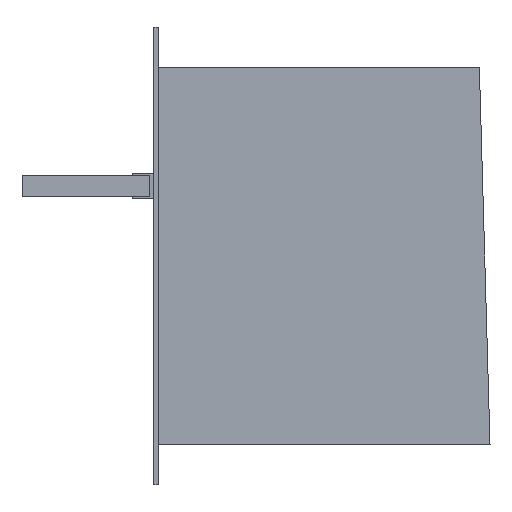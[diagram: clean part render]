
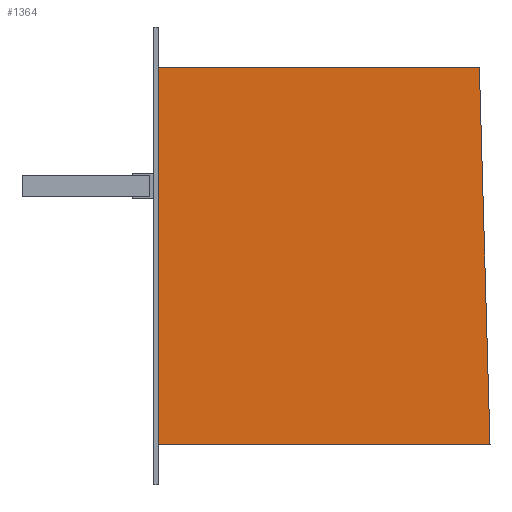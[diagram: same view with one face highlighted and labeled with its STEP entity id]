
A CAD part, left-side view. The second image highlights one B-rep face of the part: STEP entity #1364.
In plain terms, the highlighted planar face has unit normal (-1, 0, 0).
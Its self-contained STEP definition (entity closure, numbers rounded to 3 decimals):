
#26 = EDGE_LOOP ( 'NONE', ( #574, #425, #159, #1634 ) ) ;
#47 = FACE_OUTER_BOUND ( 'NONE', #26, .T. ) ;
#159 = ORIENTED_EDGE ( 'NONE', *, *, #1301, .T. ) ;
#206 = LINE ( 'NONE', #808, #1248 ) ;
#217 = CARTESIAN_POINT ( 'NONE',  ( -1941., -156., -88.5 ) ) ;
#295 = CARTESIAN_POINT ( 'NONE',  ( -1941., 0., 88.5 ) ) ;
#369 = DIRECTION ( 'NONE',  ( 0., 1., 0. ) ) ;
#425 = ORIENTED_EDGE ( 'NONE', *, *, #820, .T. ) ;
#441 = VERTEX_POINT ( 'NONE', #1649 ) ;
#507 = LINE ( 'NONE', #1591, #1785 ) ;
#538 = DIRECTION ( 'NONE',  ( 0., -1., 0. ) ) ;
#574 = ORIENTED_EDGE ( 'NONE', *, *, #1425, .T. ) ;
#613 = LINE ( 'NONE', #1520, #1879 ) ;
#708 = VECTOR ( 'NONE', #1252, 1000. ) ;
#808 = CARTESIAN_POINT ( 'NONE',  ( -1941., 0., -88.5 ) ) ;
#820 = EDGE_CURVE ( 'NONE', #1354, #867, #613, .T. ) ;
#867 = VERTEX_POINT ( 'NONE', #931 ) ;
#931 = CARTESIAN_POINT ( 'NONE',  ( -1941., -151., 88.5 ) ) ;
#966 = DIRECTION ( 'NONE',  ( 1., 0., 0. ) ) ;
#974 = PLANE ( 'NONE',  #1063 ) ;
#1063 = AXIS2_PLACEMENT_3D ( 'NONE', #1400, #966, #1866 ) ;
#1125 = CARTESIAN_POINT ( 'NONE',  ( -1941., 0., 88.5 ) ) ;
#1248 = VECTOR ( 'NONE', #538, 1000. ) ;
#1252 = DIRECTION ( 'NONE',  ( 0., 0., -1. ) ) ;
#1301 = EDGE_CURVE ( 'NONE', #867, #1687, #507, .T. ) ;
#1354 = VERTEX_POINT ( 'NONE', #217 ) ;
#1364 = ADVANCED_FACE ( 'NONE', ( #47 ), #974, .F. ) ;
#1400 = CARTESIAN_POINT ( 'NONE',  ( -1941., 2., 107.5 ) ) ;
#1412 = EDGE_CURVE ( 'NONE', #1687, #441, #1875, .T. ) ;
#1425 = EDGE_CURVE ( 'NONE', #441, #1354, #206, .T. ) ;
#1520 = CARTESIAN_POINT ( 'NONE',  ( -1941., -151., 88.5 ) ) ;
#1591 = CARTESIAN_POINT ( 'NONE',  ( -1941., 0., 88.5 ) ) ;
#1634 = ORIENTED_EDGE ( 'NONE', *, *, #1412, .T. ) ;
#1649 = CARTESIAN_POINT ( 'NONE',  ( -1941., 0., -88.5 ) ) ;
#1687 = VERTEX_POINT ( 'NONE', #295 ) ;
#1785 = VECTOR ( 'NONE', #369, 1000. ) ;
#1833 = DIRECTION ( 'NONE',  ( 0., 0.028, 1. ) ) ;
#1866 = DIRECTION ( 'NONE',  ( 0., 0., -1. ) ) ;
#1875 = LINE ( 'NONE', #1125, #708 ) ;
#1879 = VECTOR ( 'NONE', #1833, 1000. ) ;
